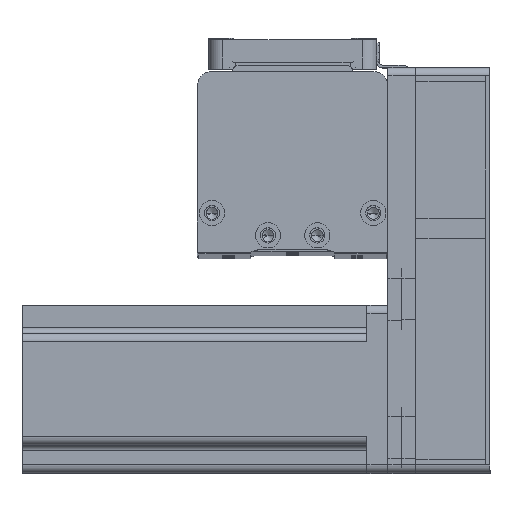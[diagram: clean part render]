
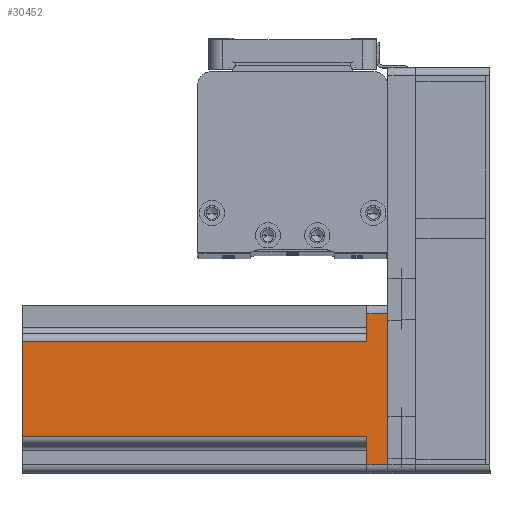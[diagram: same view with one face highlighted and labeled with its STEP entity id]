
A CAD part, top view. The second image highlights one B-rep face of the part: STEP entity #30452.
In plain terms, the highlighted planar face has unit normal (0, 0, 1) as drawn and (0, 1, 0) by its records, which use the part's own axes.
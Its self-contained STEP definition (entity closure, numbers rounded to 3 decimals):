
#518 = CARTESIAN_POINT ( 'NONE',  ( 30., 30., 0. ) ) ;
#732 = VERTEX_POINT ( 'NONE', #17252 ) ;
#1809 = DIRECTION ( 'NONE',  ( 1., 0., 0. ) ) ;
#3364 = LINE ( 'NONE', #21336, #16878 ) ;
#3761 = ORIENTED_EDGE ( 'NONE', *, *, #41581, .T. ) ;
#3941 = VECTOR ( 'NONE', #9789, 1000. ) ;
#4748 = ORIENTED_EDGE ( 'NONE', *, *, #39915, .T. ) ;
#5109 = ORIENTED_EDGE ( 'NONE', *, *, #34984, .T. ) ;
#5735 = DIRECTION ( 'NONE',  ( 1., 0., 0. ) ) ;
#5979 = VERTEX_POINT ( 'NONE', #42668 ) ;
#7393 = EDGE_LOOP ( 'NONE', ( #28579, #4748, #30623, #3761, #27683, #42245, #5109, #43289 ) ) ;
#8685 = VERTEX_POINT ( 'NONE', #43517 ) ;
#9358 = CARTESIAN_POINT ( 'NONE',  ( -20., 30., 7.5 ) ) ;
#9789 = DIRECTION ( 'NONE',  ( 0., 0., -1. ) ) ;
#11594 = LINE ( 'NONE', #518, #31563 ) ;
#11662 = CARTESIAN_POINT ( 'NONE',  ( -17., 30., 130.7 ) ) ;
#13314 = CARTESIAN_POINT ( 'NONE',  ( 27., 30., 0. ) ) ;
#13805 = AXIS2_PLACEMENT_3D ( 'NONE', #46819, #24298, #1809 ) ;
#14582 = VERTEX_POINT ( 'NONE', #36770 ) ;
#15115 = DIRECTION ( 'NONE',  ( 0., 0., 1. ) ) ;
#16878 = VECTOR ( 'NONE', #32683, 1000. ) ;
#17252 = CARTESIAN_POINT ( 'NONE',  ( 17., 30., 7.5 ) ) ;
#17618 = EDGE_CURVE ( 'NONE', #5979, #34798, #47807, .T. ) ;
#18394 = DIRECTION ( 'NONE',  ( -1., 0., 0. ) ) ;
#18462 = EDGE_CURVE ( 'NONE', #14582, #38488, #33588, .T. ) ;
#19288 = LINE ( 'NONE', #21889, #28104 ) ;
#20263 = VERTEX_POINT ( 'NONE', #47339 ) ;
#21119 = CARTESIAN_POINT ( 'NONE',  ( 17., 30., 130.7 ) ) ;
#21298 = CARTESIAN_POINT ( 'NONE',  ( -17., 30., 7.5 ) ) ;
#21336 = CARTESIAN_POINT ( 'NONE',  ( 20., 30., 7.5 ) ) ;
#21889 = CARTESIAN_POINT ( 'NONE',  ( 30., 30., 130.7 ) ) ;
#24143 = PLANE ( 'NONE',  #13805 ) ;
#24298 = DIRECTION ( 'NONE',  ( 0., -1., 0. ) ) ;
#24420 = VERTEX_POINT ( 'NONE', #21298 ) ;
#25705 = DIRECTION ( 'NONE',  ( -1., 0., 0. ) ) ;
#26178 = LINE ( 'NONE', #9358, #34976 ) ;
#27683 = ORIENTED_EDGE ( 'NONE', *, *, #41364, .F. ) ;
#28104 = VECTOR ( 'NONE', #25705, 1000. ) ;
#28579 = ORIENTED_EDGE ( 'NONE', *, *, #38865, .T. ) ;
#28718 = FACE_OUTER_BOUND ( 'NONE', #7393, .T. ) ;
#30452 = ADVANCED_FACE ( 'NONE', ( #28718 ), #24143, .F. ) ;
#30623 = ORIENTED_EDGE ( 'NONE', *, *, #38114, .F. ) ;
#31536 = LINE ( 'NONE', #21119, #3941 ) ;
#31563 = VECTOR ( 'NONE', #18394, 1000. ) ;
#32683 = DIRECTION ( 'NONE',  ( -1., 0., 0. ) ) ;
#33588 = LINE ( 'NONE', #34854, #43620 ) ;
#34798 = VERTEX_POINT ( 'NONE', #43430 ) ;
#34811 = VECTOR ( 'NONE', #15115, 1000. ) ;
#34854 = CARTESIAN_POINT ( 'NONE',  ( 27., 30., 130.7 ) ) ;
#34976 = VECTOR ( 'NONE', #5735, 1000. ) ;
#34984 = EDGE_CURVE ( 'NONE', #38488, #5979, #11594, .T. ) ;
#36770 = CARTESIAN_POINT ( 'NONE',  ( 27., 30., 7.5 ) ) ;
#38114 = EDGE_CURVE ( 'NONE', #8685, #20263, #19288, .T. ) ;
#38488 = VERTEX_POINT ( 'NONE', #13314 ) ;
#38632 = DIRECTION ( 'NONE',  ( 0., 0., -1. ) ) ;
#38865 = EDGE_CURVE ( 'NONE', #34798, #24420, #26178, .T. ) ;
#39915 = EDGE_CURVE ( 'NONE', #24420, #20263, #44844, .T. ) ;
#41364 = EDGE_CURVE ( 'NONE', #14582, #732, #3364, .T. ) ;
#41581 = EDGE_CURVE ( 'NONE', #8685, #732, #31536, .T. ) ;
#42245 = ORIENTED_EDGE ( 'NONE', *, *, #18462, .T. ) ;
#42535 = DIRECTION ( 'NONE',  ( 0., 0., 1. ) ) ;
#42668 = CARTESIAN_POINT ( 'NONE',  ( -27., 30., 0. ) ) ;
#43289 = ORIENTED_EDGE ( 'NONE', *, *, #17618, .T. ) ;
#43430 = CARTESIAN_POINT ( 'NONE',  ( -27., 30., 7.5 ) ) ;
#43517 = CARTESIAN_POINT ( 'NONE',  ( 17., 30., 130.7 ) ) ;
#43620 = VECTOR ( 'NONE', #38632, 1000. ) ;
#44844 = LINE ( 'NONE', #11662, #34811 ) ;
#46318 = CARTESIAN_POINT ( 'NONE',  ( -27., 30., 130.7 ) ) ;
#46632 = VECTOR ( 'NONE', #42535, 1000. ) ;
#46819 = CARTESIAN_POINT ( 'NONE',  ( 30., 30., 130.7 ) ) ;
#47339 = CARTESIAN_POINT ( 'NONE',  ( -17., 30., 130.7 ) ) ;
#47807 = LINE ( 'NONE', #46318, #46632 ) ;
